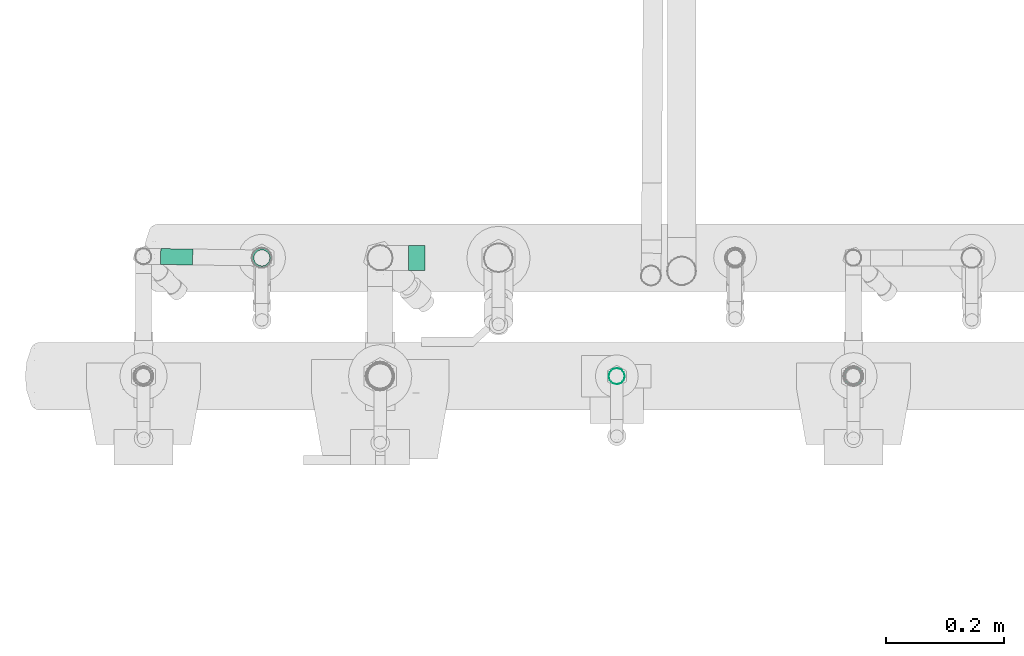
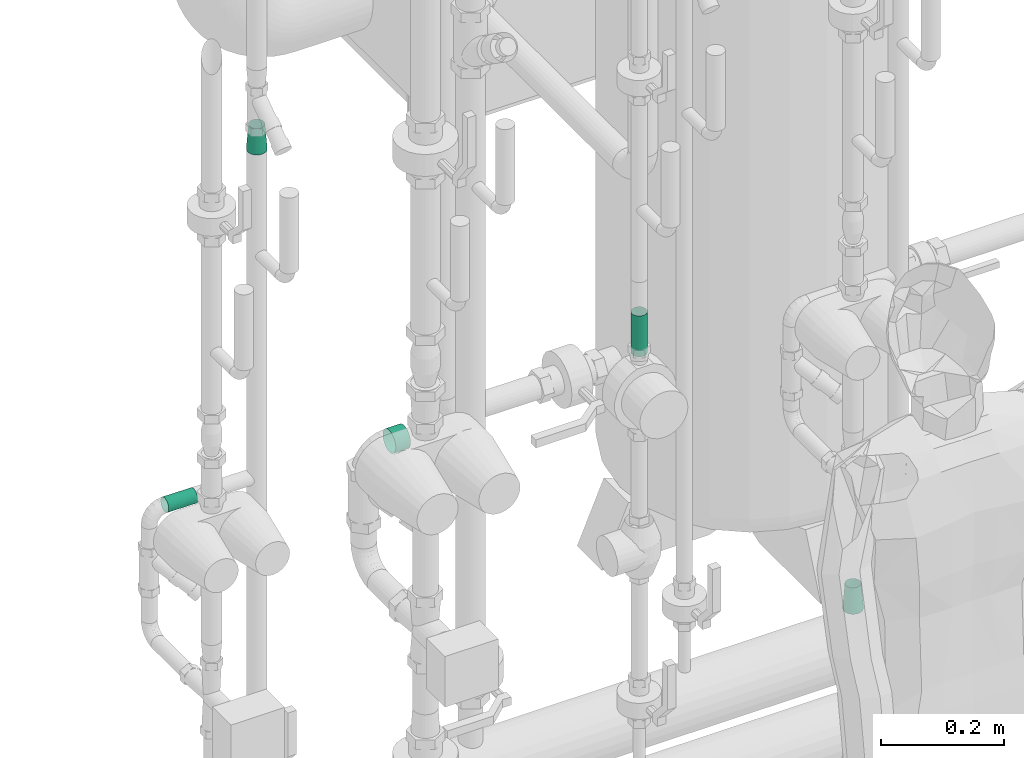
# One storey, part 342 of 374: 3 flow segments, 2 flow fittings.
"""IFC2X3 building model written with IfcOpenShell, lengths in metres."""

from ifc_helpers import new_model, si_unit, direction, origin, place, context, subcontext, project, spatial, open_shell, surface_model, source, transform, mapped, element, save


model = new_model("IFC2X3")

# Units and contexts
model_context = context("Model", 3, precision=1e-05, world=origin(), true_north=direction((-0.4480736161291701, 0.8939966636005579)))
body_context = subcontext(model_context, "Body", "Model", "MODEL_VIEW")
ifc_project = project(units=[si_unit("LENGTHUNIT", "METRE"), si_unit("AREAUNIT", "SQUARE_METRE"), si_unit("VOLUMEUNIT", "CUBIC_METRE"), si_unit("PLANEANGLEUNIT", "RADIAN"), si_unit("THERMODYNAMICTEMPERATUREUNIT", "KELVIN"), si_unit("MASSUNIT", "GRAM", prefix="KILO"), si_unit("TIMEUNIT", "SECOND")], contexts=[model_context])

# Site, building, storey
site_placement = place(None, origin())
site = spatial("IfcSite", under=ifc_project, at=site_placement, Name="Site 1", CompositionType="ELEMENT")
building_placement = place(site_placement, origin())
building = spatial("IfcBuilding", under=site, at=building_placement, Name="Undefined", CompositionType="ELEMENT")
storey_placement = place(building_placement, origin())
storey = spatial("IfcBuildingStorey", under=building, at=storey_placement, Name="Rez de chauss\x8ee", CompositionType="ELEMENT", Elevation=0.0)

# Flow segment
shared_shape_1 = source(origin(), body_context, "Body", "SurfaceModel", [
    surface_model("IfcFaceBasedSurfaceModel", [(0.0, 0.0035111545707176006, 0.0), (0.0, 0.0, 0.0), (0.08064752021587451, 1.776356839e-15, 7.105427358e-15), (0.08064752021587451, 0.003511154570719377, 7.105427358e-15), (0.0, -0.003391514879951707, -0.0009087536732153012), (0.08064752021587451, -0.0033915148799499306, -0.0009087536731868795), (0.0, -0.006432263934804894, -0.0026643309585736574), (0.08064752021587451, -0.006432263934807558, -0.0026643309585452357), (0.0, -0.00891502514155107, -0.005147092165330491), (0.08064752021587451, -0.008915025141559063, -0.00514709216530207), (0.0, -0.010670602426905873, -0.008187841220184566), (0.08064752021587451, -0.010670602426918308, -0.00818784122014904), (0.0, -0.011579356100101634, -0.01157935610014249), (0.08064752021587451, -0.01157935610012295, -0.011579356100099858), (0.0, -0.011579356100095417, -0.015090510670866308), (0.08064752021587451, -0.01157935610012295, -0.015090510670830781), (0.0, -0.010670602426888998, -0.018482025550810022), (0.08064752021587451, -0.010670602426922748, -0.01848202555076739), (0.0, -0.008915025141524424, -0.021522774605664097), (0.08064752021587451, -0.008915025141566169, -0.021522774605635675), (0.0, -0.006432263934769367, -0.02400553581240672), (0.08064752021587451, -0.00643226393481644, -0.024005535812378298), (0.0, -0.0033915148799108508, -0.025761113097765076), (0.08064752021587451, -0.0033915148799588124, -0.02576111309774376), (0.0, 4.2632564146e-14, -0.026669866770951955), (0.08064752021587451, -9.769962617e-15, -0.02666986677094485), (0.0, 0.0035111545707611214, -0.026669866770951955), (0.08064752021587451, 0.003511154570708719, -0.026669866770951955), (0.0, 0.006902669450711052, -0.02576111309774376), (0.08064752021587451, 0.006902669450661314, -0.02576111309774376), (0.0, 0.00994341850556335, -0.024005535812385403), (0.08064752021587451, 0.009943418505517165, -0.02400553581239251), (0.0, 0.012426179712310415, -0.02152277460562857), (0.08064752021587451, 0.012426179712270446, -0.021522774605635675), (0.0, 0.014181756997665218, -0.018482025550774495), (0.08064752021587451, 0.014181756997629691, -0.018482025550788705), (0.0, 0.015090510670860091, -0.01509051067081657), (0.08064752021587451, 0.015090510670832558, -0.015090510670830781), (0.0, 0.015090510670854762, -0.011579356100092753), (0.08064752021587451, 0.015090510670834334, -0.011579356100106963), (0.0, 0.014181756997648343, -0.00818784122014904), (0.08064752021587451, 0.014181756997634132, -0.008187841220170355), (0.0, 0.012426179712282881, -0.005147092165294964), (0.08064752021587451, 0.012426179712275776, -0.00514709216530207), (0.0, 0.009943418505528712, -0.002664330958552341), (0.08064752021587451, 0.009943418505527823, -0.002664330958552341), (0.0, 0.006902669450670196, -0.0009087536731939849), (0.08064752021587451, 0.006902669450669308, -0.0009087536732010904)], [open_shell([[[0, 1, 2, 3]], [[1, 4, 5, 2]], [[4, 6, 7, 5]], [[6, 8, 9, 7]], [[8, 10, 11, 9]], [[10, 12, 13, 11]], [[12, 14, 15, 13]], [[14, 16, 17, 15]], [[16, 18, 19, 17]], [[18, 20, 21, 19]], [[20, 22, 23, 21]], [[22, 24, 25, 23]], [[24, 26, 27, 25]], [[26, 28, 29, 27]], [[28, 30, 31, 29]], [[30, 32, 33, 31]], [[32, 34, 35, 33]], [[34, 36, 37, 35]], [[36, 38, 39, 37]], [[38, 40, 41, 39]], [[40, 42, 43, 41]], [[42, 44, 45, 43]], [[44, 46, 47, 45]], [[46, 0, 3, 47]]])]),
])
flow_segment_1_placement = place(storey_placement, origin())
element("IfcFlowSegment", 1, at=flow_segment_1_placement, inside=storey, Name="Tube acier d'après DIN 2448", ObjectType="Tube acier d'après DIN 2448", context=body_context, shape_type="MappedRepresentation", body=[
    mapped(shared_shape_1, transform((52.87055371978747, 10.72151816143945, 1.1755), x_axis=(0.0, 0.0, 1.0), y_axis=(0.13052619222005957, -0.9914448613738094, 0.0), z_axis=(0.9914448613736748, 0.13052619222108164, 0.0))),
])

# Flow fittings
shared_shape_2 = source(origin(), body_context, "Body", "SurfaceModel", [
    surface_model("IfcFaceBasedSurfaceModel", [(0.0, 0.0, 0.0), (0.004398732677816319, 0.0, -7.105427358e-15), (0.004398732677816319, 0.0041048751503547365, -7.105427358e-15), (0.0, 0.0041048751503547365, -7.105427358e-15), (0.008647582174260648, 0.0, -0.001138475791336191), (0.008647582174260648, 0.0041048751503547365, -0.001138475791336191), (0.012456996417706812, 0.0, -0.003337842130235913), (0.012456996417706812, 0.0041048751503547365, -0.003337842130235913), (0.015567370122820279, 0.0, -0.0064482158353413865), (0.015567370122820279, 0.0041048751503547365, -0.0064482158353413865), (0.01776673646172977, 0.0, -0.010257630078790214), (0.01776673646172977, 0.0041048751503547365, -0.010257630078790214), (0.018905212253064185, 0.0, -0.014506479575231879), (0.018905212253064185, 0.0041048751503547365, -0.014506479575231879), (0.01890521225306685, 0.0, -0.018905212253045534), (0.01890521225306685, 0.0041048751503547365, -0.018905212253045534), (0.017766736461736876, 0.0, -0.023154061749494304), (0.017766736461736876, 0.0041048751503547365, -0.023154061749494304), (0.015567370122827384, 0.0, -0.026963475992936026), (0.015567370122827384, 0.0041048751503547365, -0.026963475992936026), (0.012456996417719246, 0.0, -0.03007384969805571), (0.012456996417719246, 0.0041048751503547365, -0.03007384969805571), (0.008647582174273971, 0.0, -0.03227321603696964), (0.008647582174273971, 0.0041048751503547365, -0.03227321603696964), (0.00439873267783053, 0.0, -0.03341169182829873), (0.00439873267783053, 0.0041048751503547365, -0.03341169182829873), (0.0, -1.5099033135e-14, -0.03341169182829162), (1.5099033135e-14, 0.0041048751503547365, -0.033411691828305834), (-0.004248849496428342, 0.0, -0.03227321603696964), (-0.004248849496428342, 0.0041048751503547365, -0.03227321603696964), (-0.008058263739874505, 0.0, -0.03007384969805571), (-0.008058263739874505, 0.0041048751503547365, -0.03007384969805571), (-0.011168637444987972, 0.0, -0.026963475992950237), (-0.011168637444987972, 0.0041048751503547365, -0.026963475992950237), (-0.013368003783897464, 0.0, -0.02315406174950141), (-0.013368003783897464, 0.0041048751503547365, -0.02315406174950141), (-0.014506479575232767, 0.0, -0.01890521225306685), (-0.014506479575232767, 0.0041048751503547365, -0.01890521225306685), (-0.014506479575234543, 0.0, -0.01450647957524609), (-0.014506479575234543, 0.0041048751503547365, -0.01450647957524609), (-0.01336800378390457, 0.0, -0.01025763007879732), (-0.01336800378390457, 0.0041048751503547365, -0.01025763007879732), (-0.011168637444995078, 0.0, -0.006448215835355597), (-0.011168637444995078, 0.0041048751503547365, -0.006448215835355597), (-0.00805826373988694, 0.0, -0.0033378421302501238), (-0.00805826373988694, 0.0041048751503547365, -0.0033378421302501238), (-0.004248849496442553, 0.0, -0.0011384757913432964), (-0.004248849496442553, 0.0041048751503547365, -0.0011384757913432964), (-0.011135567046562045, 0.04671975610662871, -0.01495026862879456), (-0.011135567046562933, 0.04671975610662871, -0.01846142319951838), (-0.010226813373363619, 0.04671975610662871, -0.011558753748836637), (-0.008471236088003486, 0.04671975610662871, -0.008518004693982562), (-0.005988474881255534, 0.04671975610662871, -0.006035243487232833), (-0.002947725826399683, 0.04671975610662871, -0.004279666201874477), (0.0004437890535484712, 0.04671975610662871, -0.003370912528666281), (0.0039549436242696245, 0.04671975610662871, -0.003370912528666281), (0.007346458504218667, 0.04671975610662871, -0.0042796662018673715), (0.010387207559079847, 0.04671975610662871, -0.006035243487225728), (0.012869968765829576, 0.04671975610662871, -0.00851800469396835), (0.014625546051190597, 0.04671975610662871, -0.011558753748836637), (0.015534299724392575, 0.04671975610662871, -0.014950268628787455), (0.015534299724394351, 0.04671975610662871, -0.018461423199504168), (0.014625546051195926, 0.04671975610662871, -0.021852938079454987), (0.01286996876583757, 0.04671975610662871, -0.02489368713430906), (0.010387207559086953, 0.04671975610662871, -0.027376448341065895), (0.0073464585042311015, 0.04671975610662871, -0.029132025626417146), (0.003954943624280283, 0.04671975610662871, -0.030040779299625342), (0.0004437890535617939, 0.04671975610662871, -0.030040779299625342), (-0.0029477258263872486, 0.04671975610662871, -0.029132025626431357), (-0.0059884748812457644, 0.04671975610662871, -0.027376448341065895), (-0.00847123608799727, 0.04671975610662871, -0.024893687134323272), (-0.01022681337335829, 0.04671975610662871, -0.021852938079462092), (0.0039549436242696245, 0.050000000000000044, -0.003370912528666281), (0.0004437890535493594, 0.050000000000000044, -0.0033709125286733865), (0.0073464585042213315, 0.050000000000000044, -0.004279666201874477), (0.010387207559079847, 0.050000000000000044, -0.006035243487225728), (0.012869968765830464, 0.050000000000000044, -0.008518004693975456), (0.014625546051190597, 0.050000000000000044, -0.011558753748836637), (0.015534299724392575, 0.050000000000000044, -0.014950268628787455), (0.01553429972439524, 0.050000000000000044, -0.018461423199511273), (0.014625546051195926, 0.050000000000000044, -0.021852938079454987), (0.012869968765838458, 0.050000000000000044, -0.024893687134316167), (0.01038720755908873, 0.050000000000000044, -0.027376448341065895), (0.0073464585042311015, 0.050000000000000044, -0.029132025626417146), (0.003954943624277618, 0.050000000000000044, -0.030040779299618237), (0.0004437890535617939, 0.050000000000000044, -0.030040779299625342), (-0.002947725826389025, 0.050000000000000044, -0.029132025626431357), (-0.005988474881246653, 0.050000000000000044, -0.027376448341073), (-0.00847123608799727, 0.050000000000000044, -0.024893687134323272), (-0.010226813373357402, 0.050000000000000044, -0.021852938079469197), (-0.011135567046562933, 0.050000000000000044, -0.01846142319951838), (-0.011135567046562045, 0.050000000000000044, -0.01495026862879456), (-0.010226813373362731, 0.050000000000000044, -0.011558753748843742), (-0.008471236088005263, 0.050000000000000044, -0.008518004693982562), (-0.005988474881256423, 0.050000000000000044, -0.0060352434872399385), (-0.002947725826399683, 0.050000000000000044, -0.004279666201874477)], [open_shell([[[0, 1, 2, 3]], [[1, 4, 5, 2]], [[4, 6, 7, 5]], [[6, 8, 9, 7]], [[8, 10, 11, 9]], [[10, 12, 13, 11]], [[12, 14, 15, 13]], [[14, 16, 17, 15]], [[16, 18, 19, 17]], [[18, 20, 21, 19]], [[20, 22, 23, 21]], [[22, 24, 25, 23]], [[24, 26, 27, 25]], [[26, 28, 29, 27]], [[28, 30, 31, 29]], [[30, 32, 33, 31]], [[32, 34, 35, 33]], [[34, 36, 37, 35]], [[36, 38, 39, 37]], [[38, 40, 41, 39]], [[40, 42, 43, 41]], [[42, 44, 45, 43]], [[44, 46, 47, 45]], [[46, 0, 3, 47]], [[37, 39, 48, 49]], [[39, 41, 50, 48]], [[41, 43, 51, 50]], [[43, 45, 52, 51]], [[45, 47, 53, 52]], [[47, 3, 54, 53]], [[3, 2, 55, 54]], [[2, 5, 56, 55]], [[5, 7, 57, 56]], [[7, 9, 58, 57]], [[9, 11, 59, 58]], [[11, 13, 60, 59]], [[13, 15, 61, 60]], [[15, 17, 62, 61]], [[17, 19, 63, 62]], [[19, 21, 64, 63]], [[21, 23, 65, 64]], [[23, 25, 66, 65]], [[25, 27, 67, 66]], [[27, 29, 68, 67]], [[29, 31, 69, 68]], [[31, 33, 70, 69]], [[33, 35, 71, 70]], [[35, 37, 49, 71]], [[54, 55, 72, 73]], [[55, 56, 74, 72]], [[56, 57, 75, 74]], [[57, 58, 76, 75]], [[58, 59, 77, 76]], [[59, 60, 78, 77]], [[60, 61, 79, 78]], [[61, 62, 80, 79]], [[62, 63, 81, 80]], [[63, 64, 82, 81]], [[64, 65, 83, 82]], [[65, 66, 84, 83]], [[66, 67, 85, 84]], [[67, 68, 86, 85]], [[68, 69, 87, 86]], [[69, 70, 88, 87]], [[70, 71, 89, 88]], [[71, 49, 90, 89]], [[49, 48, 91, 90]], [[48, 50, 92, 91]], [[50, 51, 93, 92]], [[51, 52, 94, 93]], [[52, 53, 95, 94]], [[53, 54, 73, 95]]])]),
])
flow_fitting_1_placement = place(storey_placement, origin())
element("IfcFlowFitting", 2, at=flow_fitting_1_placement, inside=storey, Name="Réduction", ObjectType="Réduction", context=body_context, shape_type="MappedRepresentation", body=[
    mapped(shared_shape_2, transform((53.24071201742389, 10.718037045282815, 0.5285500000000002), x_axis=(0.13052619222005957, -0.9914448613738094, 0.0), y_axis=(0.0, 0.0, 1.0), z_axis=(-0.9914448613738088, -0.13052619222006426, 0.0))),
])
shared_shape_3 = source(origin(), body_context, "Body", "SurfaceModel", [
    surface_model("IfcFaceBasedSurfaceModel", [(0.0, 0.0, 0.0), (0.0035111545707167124, 0.0, 0.0), (0.0035111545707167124, 0.0032802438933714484, 0.0), (-1.776356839e-15, 0.0032802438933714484, 7.105427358e-15), (0.006902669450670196, 0.0, -0.0009087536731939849), (0.006902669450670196, 0.0032802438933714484, -0.0009087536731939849), (0.009943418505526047, 0.0, -0.002664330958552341), (0.009943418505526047, 0.0032802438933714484, -0.002664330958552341), (0.01242617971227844, 0.0, -0.00514709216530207), (0.01242617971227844, 0.0032802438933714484, -0.00514709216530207), (0.014181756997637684, 0.0, -0.00818784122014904), (0.014181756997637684, 0.0032802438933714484, -0.00818784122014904), (0.01509051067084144, 0.0, -0.011579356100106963), (0.01509051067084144, 0.0032802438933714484, -0.011579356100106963), (0.015090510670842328, 0.0, -0.015090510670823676), (0.015090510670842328, 0.0032802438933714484, -0.015090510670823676), (0.014181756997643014, 0.0, -0.018482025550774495), (0.014181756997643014, 0.0032802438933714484, -0.018482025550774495), (0.01242617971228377, 0.0, -0.021522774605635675), (0.01242617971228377, 0.0032802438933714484, -0.021522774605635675), (0.009943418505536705, 0.0, -0.024005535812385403), (0.009943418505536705, 0.0032802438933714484, -0.024005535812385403), (0.006902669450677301, 0.0, -0.02576111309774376), (0.006902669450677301, 0.0032802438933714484, -0.02576111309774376), (0.0035111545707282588, 0.0, -0.02666986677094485), (0.0035111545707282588, 0.0032802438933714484, -0.02666986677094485), (0.0, 4.2632564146e-14, -0.026669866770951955), (9.769962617e-15, 0.0032802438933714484, -0.02666986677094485), (-0.003391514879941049, 0.0, -0.025761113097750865), (-0.003391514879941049, 0.0032802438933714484, -0.025761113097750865), (-0.006432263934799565, 0.0, -0.02400553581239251), (-0.006432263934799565, 0.0032802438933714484, -0.02400553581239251), (-0.008915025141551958, 0.0, -0.02152277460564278), (-0.008915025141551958, 0.0032802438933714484, -0.02152277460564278), (-0.010670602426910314, 0.0, -0.018482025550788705), (-0.010670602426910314, 0.0032802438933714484, -0.018482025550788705), (-0.011579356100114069, 0.0, -0.015090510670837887), (-0.011579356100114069, 0.0032802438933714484, -0.015090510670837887), (-0.011579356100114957, 0.0, -0.011579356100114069), (-0.011579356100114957, 0.0032802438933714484, -0.011579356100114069), (-0.010670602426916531, 0.0, -0.008187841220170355), (-0.010670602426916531, 0.0032802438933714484, -0.008187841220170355), (-0.008915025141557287, 0.0, -0.005147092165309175), (-0.008915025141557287, 0.0032802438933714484, -0.005147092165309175), (-0.006432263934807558, 0.0, -0.0026643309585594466), (-0.006432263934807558, 0.0032802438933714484, -0.0026643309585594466), (-0.003391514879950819, 0.0, -0.0009087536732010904), (-0.003391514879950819, 0.0032802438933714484, -0.0009087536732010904), (-0.014950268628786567, 0.045895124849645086, -0.011135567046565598), (-0.01495026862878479, 0.045895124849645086, -0.015534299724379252), (-0.013811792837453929, 0.045895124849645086, -0.006886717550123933), (-0.011612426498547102, 0.045895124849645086, -0.0030773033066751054), (-0.00850205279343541, 0.0458951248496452, 3.307039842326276e-05), (-0.0046926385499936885, 0.045895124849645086, 0.0022324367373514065), (-0.00044378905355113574, 0.045895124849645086, 0.0033709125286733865), (0.003954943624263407, 0.045895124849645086, 0.0033709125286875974), (0.008203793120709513, 0.045895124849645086, 0.002232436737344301), (0.012013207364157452, 0.0458951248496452, 3.3070398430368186e-05), (0.015123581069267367, 0.045895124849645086, -0.003077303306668), (0.017322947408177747, 0.045895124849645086, -0.006886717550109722), (0.018461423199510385, 0.045895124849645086, -0.011135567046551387), (0.018461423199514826, 0.045895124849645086, -0.015534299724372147), (0.017322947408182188, 0.045895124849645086, -0.01978314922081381), (0.015123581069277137, 0.045895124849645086, -0.02359256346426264), (0.012013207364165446, 0.045895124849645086, -0.026702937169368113), (0.00820379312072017, 0.045895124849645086, -0.02890230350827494), (0.00395494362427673, 0.045895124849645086, -0.03004077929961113), (-0.0004437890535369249, 0.045895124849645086, -0.03004077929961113), (-0.004692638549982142, 0.045895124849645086, -0.028902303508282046), (-0.008502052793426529, 0.045895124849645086, -0.026702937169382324), (-0.011612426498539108, 0.045895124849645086, -0.023592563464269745), (-0.013811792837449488, 0.045895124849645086, -0.019783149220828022), (0.0039549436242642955, 0.050000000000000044, 0.003370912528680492), (-0.00044378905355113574, 0.050000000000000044, 0.0033709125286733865), (0.008203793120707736, 0.050000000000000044, 0.002232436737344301), (0.012013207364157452, 0.04999999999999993, 3.3070398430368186e-05), (0.015123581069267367, 0.050000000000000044, -0.003077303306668), (0.017322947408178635, 0.050000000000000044, -0.006886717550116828), (0.018461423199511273, 0.050000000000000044, -0.011135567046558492), (0.018461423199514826, 0.050000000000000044, -0.015534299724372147), (0.017322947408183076, 0.050000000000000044, -0.019783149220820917), (0.015123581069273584, 0.050000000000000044, -0.02359256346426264), (0.012013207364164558, 0.050000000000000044, -0.026702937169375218), (0.008203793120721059, 0.050000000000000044, -0.028902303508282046), (0.003954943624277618, 0.050000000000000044, -0.030040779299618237), (-0.0004437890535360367, 0.050000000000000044, -0.030040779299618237), (-0.004692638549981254, 0.050000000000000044, -0.02890230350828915), (-0.008502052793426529, 0.050000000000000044, -0.026702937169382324), (-0.01161242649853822, 0.050000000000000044, -0.02359256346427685), (-0.013811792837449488, 0.050000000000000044, -0.019783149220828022), (-0.014950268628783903, 0.050000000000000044, -0.015534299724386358), (-0.014950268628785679, 0.050000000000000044, -0.011135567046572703), (-0.013811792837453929, 0.050000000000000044, -0.006886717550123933), (-0.011612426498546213, 0.050000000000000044, -0.003077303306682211), (-0.008502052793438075, 0.045895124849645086, 3.3070398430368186e-05), (-0.008502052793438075, 0.050000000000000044, 3.3070398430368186e-05), (-0.0046926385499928, 0.050000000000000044, 0.002232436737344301)], [open_shell([[[0, 1, 2, 3]], [[1, 4, 5, 2]], [[4, 6, 7, 5]], [[6, 8, 9, 7]], [[8, 10, 11, 9]], [[10, 12, 13, 11]], [[12, 14, 15, 13]], [[14, 16, 17, 15]], [[16, 18, 19, 17]], [[18, 20, 21, 19]], [[20, 22, 23, 21]], [[22, 24, 25, 23]], [[24, 26, 27, 25]], [[26, 28, 29, 27]], [[28, 30, 31, 29]], [[30, 32, 33, 31]], [[32, 34, 35, 33]], [[34, 36, 37, 35]], [[36, 38, 39, 37]], [[38, 40, 41, 39]], [[40, 42, 43, 41]], [[42, 44, 45, 43]], [[44, 46, 47, 45]], [[46, 0, 3, 47]], [[37, 39, 48, 49]], [[39, 41, 50, 48]], [[41, 43, 51, 50]], [[43, 45, 52, 51]], [[45, 47, 53, 52]], [[47, 3, 54, 53]], [[3, 2, 55, 54]], [[2, 5, 56, 55]], [[5, 7, 57, 56]], [[7, 9, 58, 57]], [[9, 11, 59, 58]], [[11, 13, 60, 59]], [[13, 15, 61, 60]], [[15, 17, 62, 61]], [[17, 19, 63, 62]], [[19, 21, 64, 63]], [[21, 23, 65, 64]], [[23, 25, 66, 65]], [[25, 27, 67, 66]], [[27, 29, 68, 67]], [[29, 31, 69, 68]], [[31, 33, 70, 69]], [[33, 35, 71, 70]], [[35, 37, 49, 71]], [[54, 55, 72, 73]], [[55, 56, 74, 72]], [[56, 57, 75, 74]], [[57, 58, 76, 75]], [[58, 59, 77, 76]], [[59, 60, 78, 77]], [[60, 61, 79, 78]], [[61, 62, 80, 79]], [[62, 63, 81, 80]], [[63, 64, 82, 81]], [[64, 65, 83, 82]], [[65, 66, 84, 83]], [[66, 67, 85, 84]], [[67, 68, 86, 85]], [[68, 69, 87, 86]], [[69, 70, 88, 87]], [[70, 71, 89, 88]], [[71, 49, 90, 89]], [[49, 48, 91, 90]], [[48, 50, 92, 91]], [[50, 51, 93, 92]], [[51, 94, 95, 93]], [[94, 53, 96, 95]], [[53, 54, 73, 96]]])]),
])
flow_fitting_2_placement = place(storey_placement, origin())
element("IfcFlowFitting", 3, at=flow_fitting_2_placement, inside=storey, Name="Réduction", ObjectType="Réduction", context=body_context, shape_type="MappedRepresentation", body=[
    mapped(shared_shape_3, transform((52.24411201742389, 10.918037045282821, 1.7157838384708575), x_axis=(0.13052619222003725, 0.9914448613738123, 0.0), y_axis=(0.0, 0.0, -1.0), z_axis=(-0.9914448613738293, 0.13052619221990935, 0.0))),
])

# Flow segments
shared_shape_4 = source(origin(), body_context, "Body", "SurfaceModel", [
    surface_model("IfcFaceBasedSurfaceModel", [(0.0, 0.0035111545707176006, 0.0), (0.0, 0.0, 0.0), (0.0541653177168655, -4.4408921e-16, 0.0), (0.05416531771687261, 0.003511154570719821, -1.776356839e-15), (0.0, -0.003391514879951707, -0.0009087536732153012), (0.0541653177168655, -0.003391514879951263, -0.0009087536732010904), (0.0, -0.006432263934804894, -0.0026643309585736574), (0.0541653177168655, -0.0064322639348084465, -0.0026643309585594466), (0.0, -0.00891502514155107, -0.005147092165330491), (0.05416531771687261, -0.008915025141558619, -0.005147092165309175), (0.0, -0.010670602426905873, -0.008187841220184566), (0.0541653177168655, -0.01067060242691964, -0.008187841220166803), (0.0, -0.011579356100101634, -0.01157935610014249), (0.05416531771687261, -0.011579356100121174, -0.011579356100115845), (0.0, -0.011579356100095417, -0.015090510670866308), (0.0541653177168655, -0.011579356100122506, -0.01509051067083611), (0.0, -0.010670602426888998, -0.018482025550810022), (0.0541653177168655, -0.01067060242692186, -0.018482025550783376), (0.0, -0.008915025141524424, -0.021522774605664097), (0.0541653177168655, -0.008915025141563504, -0.021522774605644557), (0.0, -0.006432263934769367, -0.02400553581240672), (0.05416531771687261, -0.00643226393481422, -0.02400553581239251), (0.0, -0.0033915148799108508, -0.025761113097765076), (0.0541653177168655, -0.0033915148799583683, -0.025761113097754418), (0.0, 4.2632564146e-14, -0.026669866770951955), (0.0541653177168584, -7.549516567e-15, -0.026669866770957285), (0.0, 0.0035111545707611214, -0.026669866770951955), (0.0541653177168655, 0.0035111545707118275, -0.026669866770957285), (0.0, 0.006902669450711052, -0.02576111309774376), (0.05416531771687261, 0.00690266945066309, -0.025761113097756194), (0.0, 0.00994341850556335, -0.024005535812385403), (0.0541653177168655, 0.009943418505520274, -0.024005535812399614), (0.0, 0.012426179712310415, -0.02152277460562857), (0.0541653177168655, 0.012426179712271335, -0.021522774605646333), (0.0, 0.014181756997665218, -0.018482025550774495), (0.0541653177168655, 0.014181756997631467, -0.018482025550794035), (0.0, 0.015090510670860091, -0.01509051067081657), (0.05416531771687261, 0.015090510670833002, -0.015090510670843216), (0.0, 0.015090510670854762, -0.011579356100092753), (0.0541653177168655, 0.015090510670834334, -0.011579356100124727), (0.0, 0.014181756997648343, -0.00818784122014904), (0.05416531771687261, 0.014181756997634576, -0.008187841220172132), (0.0, 0.012426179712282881, -0.005147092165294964), (0.0541653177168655, 0.012426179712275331, -0.005147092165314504), (0.0, 0.009943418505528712, -0.002664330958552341), (0.0541653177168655, 0.009943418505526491, -0.0026643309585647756), (0.0, 0.006902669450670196, -0.0009087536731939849), (0.0541653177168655, 0.006902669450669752, -0.0009087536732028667)], [open_shell([[[0, 1, 2, 3]], [[1, 4, 5, 2]], [[4, 6, 7, 5]], [[6, 8, 9, 7]], [[8, 10, 11, 9]], [[10, 12, 13, 11]], [[12, 14, 15, 13]], [[14, 16, 17, 15]], [[16, 18, 19, 17]], [[18, 20, 21, 19]], [[20, 22, 23, 21]], [[22, 24, 25, 23]], [[24, 26, 27, 25]], [[26, 28, 29, 27]], [[28, 30, 31, 29]], [[30, 32, 33, 31]], [[32, 34, 35, 33]], [[34, 36, 37, 35]], [[36, 38, 39, 37]], [[38, 40, 41, 39]], [[40, 42, 43, 41]], [[42, 44, 45, 43]], [[44, 46, 47, 45]], [[46, 0, 3, 47]]])]),
])
flow_segment_2_placement = place(storey_placement, origin())
element("IfcFlowSegment", 4, at=flow_segment_2_placement, inside=storey, Name="Tube acier d'après DIN 2448", ObjectType="Tube acier d'après DIN 2448", context=body_context, shape_type="MappedRepresentation", body=[
    mapped(shared_shape_4, transform((52.140548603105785, 10.906610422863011, 1.0243534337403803), x_axis=(-0.9999104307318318, 0.013383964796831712, 0.0), y_axis=(-0.001746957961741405, -0.1305145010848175, -0.9914448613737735), z_axis=(-0.013269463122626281, -0.9913560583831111, 0.1305261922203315))),
])
shared_shape_5 = source(origin(), body_context, "Body", "SurfaceModel", [
    surface_model("IfcFaceBasedSurfaceModel", [(0.0, 0.005534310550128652, 0.0), (0.0, 0.0, 0.0), (0.02785, 0.0, 0.0), (0.027849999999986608, 0.005534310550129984, 0.0), (0.0, -0.00534573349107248, -0.0014323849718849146), (0.027849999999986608, -0.0053457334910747, -0.0014323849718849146), (0.0, -0.010138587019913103, -0.004199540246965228), (0.027849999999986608, -0.010138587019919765, -0.0041995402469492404), (0.0, -0.01405193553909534, -0.008112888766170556), (0.027849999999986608, -0.01405193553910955, -0.008112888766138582), (0.0, -0.016819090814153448, -0.012905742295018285), (0.027849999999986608, -0.016819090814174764, -0.012905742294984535), (0.0, -0.018251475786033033, -0.018251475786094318), (0.027849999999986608, -0.018251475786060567, -0.01825147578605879), (0.0, -0.0182514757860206, -0.02378578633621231), (0.027849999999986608, -0.018251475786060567, -0.02378578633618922), (0.0, -0.01681909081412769, -0.029131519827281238), (0.027849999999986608, -0.016819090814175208, -0.029131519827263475), (0.0, -0.014051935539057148, -0.03392437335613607), (0.027849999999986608, -0.014051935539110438, -0.03392437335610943), (0.0, -0.010138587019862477, -0.037837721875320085), (0.027849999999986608, -0.010138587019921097, -0.03783772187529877), (0.0, -0.005345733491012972, -0.040604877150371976), (0.027849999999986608, -0.0053457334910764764, -0.040604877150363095), (0.0, 6.4837024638e-14, -0.042037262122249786), (0.027849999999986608, -1.776356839e-15, -0.042037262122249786), (0.0, 0.005534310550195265, -0.04203726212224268), (0.027849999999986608, 0.0055343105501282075, -0.042037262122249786), (0.0, 0.010880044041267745, -0.04060487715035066), (0.027849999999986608, 0.010880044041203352, -0.04060487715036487), (0.0, 0.01567289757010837, -0.03783772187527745), (0.027849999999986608, 0.015672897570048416, -0.03783772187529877), (0.0, 0.019586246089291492, -0.033924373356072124), (0.027849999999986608, 0.019586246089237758, -0.03392437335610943), (0.0, 0.0223534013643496, -0.029131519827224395), (0.027849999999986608, 0.022353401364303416, -0.02913151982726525), (0.0, 0.02378578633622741, -0.023785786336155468), (0.027849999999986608, 0.023785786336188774, -0.023785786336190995), (0.0, 0.023785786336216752, -0.01825147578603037), (0.027849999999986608, 0.02378578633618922, -0.018251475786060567), (0.0, 0.022353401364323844, -0.012905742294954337), (0.027849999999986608, 0.02235340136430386, -0.012905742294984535), (0.0, 0.019586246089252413, -0.008112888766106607), (0.027849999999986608, 0.01958624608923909, -0.008112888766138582), (0.0, 0.015672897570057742, -0.004199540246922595), (0.027849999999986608, 0.015672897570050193, -0.004199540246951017), (0.0, 0.010880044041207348, -0.0014323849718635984), (0.027849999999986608, 0.010880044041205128, -0.0014323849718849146)], [open_shell([[[0, 1, 2, 3]], [[1, 4, 5, 2]], [[4, 6, 7, 5]], [[6, 8, 9, 7]], [[8, 10, 11, 9]], [[10, 12, 13, 11]], [[12, 14, 15, 13]], [[14, 16, 17, 15]], [[16, 18, 19, 17]], [[18, 20, 21, 19]], [[20, 22, 23, 21]], [[22, 24, 25, 23]], [[24, 26, 27, 25]], [[26, 28, 29, 27]], [[28, 30, 31, 29]], [[30, 32, 33, 31]], [[32, 34, 35, 33]], [[34, 36, 37, 35]], [[36, 38, 39, 37]], [[38, 40, 41, 39]], [[40, 42, 43, 41]], [[42, 44, 45, 43]], [[44, 46, 47, 45]], [[46, 0, 3, 47]]])]),
])
flow_segment_3_placement = place(storey_placement, origin())
element("IfcFlowSegment", 5, at=flow_segment_3_placement, inside=storey, Name="Tube acier d'après DIN 2448", ObjectType="Tube acier d'après DIN 2448", context=body_context, shape_type="MappedRepresentation", body=[
    mapped(shared_shape_5, transform((52.53341201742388, 10.938514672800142, 0.9960698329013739), x_axis=(-1.0, 0.0, 0.0), y_axis=(0.0, 0.13052619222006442, 0.9914448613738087), z_axis=(0.0, 0.9914448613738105, -0.13052619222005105))),
])

save(model, "model.ifc")
